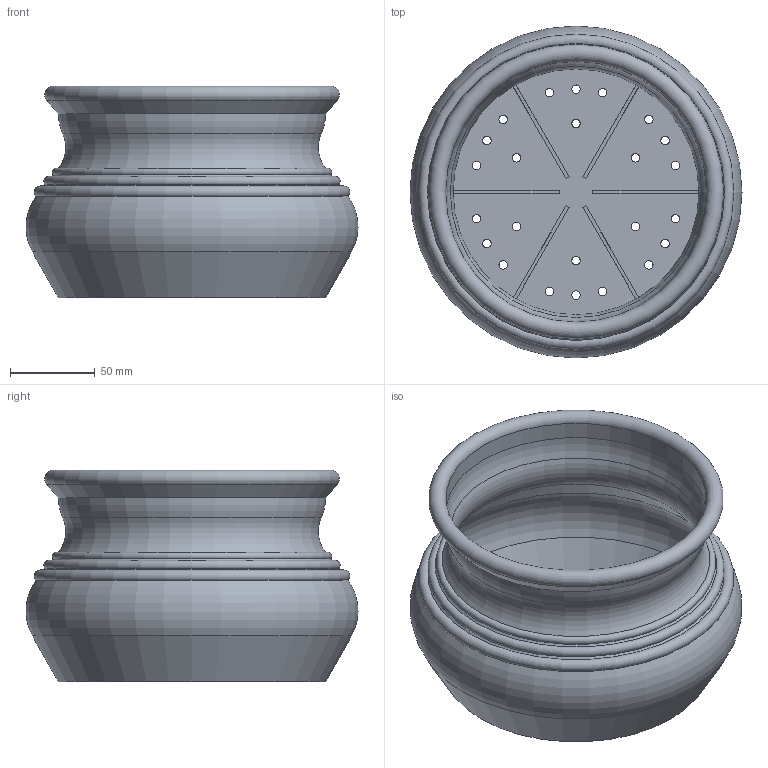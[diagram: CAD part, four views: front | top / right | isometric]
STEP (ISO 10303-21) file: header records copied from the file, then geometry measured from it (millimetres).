
FILE_DESCRIPTION(/* description */ (''),/* implementation_level */ '2;1');
FILE_NAME(/* name */ 'LR2406-S20-H125-D200_step.step',/* time_stamp */ '2024-02-01T11:23:35+01:00',/* author */ (''),/* organization */ (''),/* preprocessor_version */ 'ST-DEVELOPER v20',/* originating_system */ 'Autodesk Translation Framework v12.20.1.177',/* authorisation */ '');
FILE_SCHEMA (('AUTOMOTIVE_DESIGN { 1 0 10303 214 3 1 1 }'));
Length unit declared in the file: millimetre
Products named in the file (1): LR2406-S20-H125-D200
Bounding box: 195.99 x 195.99 x 125 mm (x, y, z)
Volume: 241600.6 mm3; surface area: 195727.9 mm2
Topology: 1 solids, 1 shells, 68 faces, 181 edges, 115 vertices
Faces by surface type: cylinder 31, plane 20, torus 10, cone 7
Full cylindrical faces by diameter (mm): 5 x24, 154 x1
Entity records: 2286 total; most frequent: DIRECTION 420, CARTESIAN_POINT 365, ORIENTED_EDGE 362, EDGE_CURVE 181, AXIS2_PLACEMENT_3D 170, EDGE_LOOP 116, VERTEX_POINT 115, CIRCLE 101
